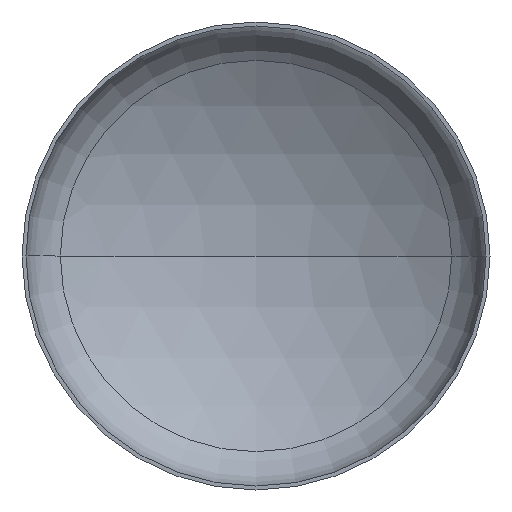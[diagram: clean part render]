
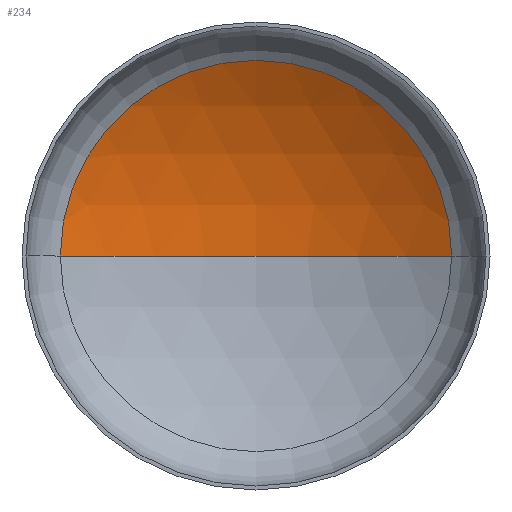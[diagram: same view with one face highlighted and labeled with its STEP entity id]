
A CAD part, front view. The second image highlights one B-rep face of the part: STEP entity #234.
In plain terms, the highlighted spherical face has radius 4000 mm.
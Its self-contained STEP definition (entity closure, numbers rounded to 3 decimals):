
#12 = EDGE_LOOP ( 'NONE', ( #50, #86, #32 ) ) ;
#32 = ORIENTED_EDGE ( 'NONE', *, *, #51, .T. ) ;
#36 = AXIS2_PLACEMENT_3D ( 'NONE', #188, #360, #356 ) ;
#42 = VERTEX_POINT ( 'NONE', #247 ) ;
#50 = ORIENTED_EDGE ( 'NONE', *, *, #151, .F. ) ;
#51 = EDGE_CURVE ( 'NONE', #107, #156, #211, .T. ) ;
#86 = ORIENTED_EDGE ( 'NONE', *, *, #112, .T. ) ;
#107 = VERTEX_POINT ( 'NONE', #338 ) ;
#112 = EDGE_CURVE ( 'NONE', #42, #107, #362, .T. ) ;
#136 = AXIS2_PLACEMENT_3D ( 'NONE', #323, #322, #300 ) ;
#151 = EDGE_CURVE ( 'NONE', #42, #156, #196, .T. ) ;
#156 = VERTEX_POINT ( 'NONE', #378 ) ;
#176 = CARTESIAN_POINT ( 'NONE',  ( 0., -2623.826, 0. ) ) ;
#185 = DIRECTION ( 'NONE',  ( 0., 0., -1. ) ) ;
#188 = CARTESIAN_POINT ( 'NONE',  ( 0., -2623.826, 0. ) ) ;
#196 = CIRCLE ( 'NONE', #136, 4000. ) ;
#211 = CIRCLE ( 'NONE', #386, 2090.402 ) ;
#227 = DIRECTION ( 'NONE',  ( 1., 0., 0. ) ) ;
#230 = DIRECTION ( 'NONE',  ( 0., -1., 0. ) ) ;
#233 = CARTESIAN_POINT ( 'NONE',  ( 0., 786.485, 0. ) ) ;
#234 = ADVANCED_FACE ( 'NONE', ( #251 ), #325, .F. ) ;
#247 = CARTESIAN_POINT ( 'NONE',  ( 0., 1376.174, 0. ) ) ;
#251 = FACE_OUTER_BOUND ( 'NONE', #12, .T. ) ;
#268 = DIRECTION ( 'NONE',  ( -1., 0., 0. ) ) ;
#300 = DIRECTION ( 'NONE',  ( 1., 0., 0. ) ) ;
#322 = DIRECTION ( 'NONE',  ( 0., 0., 1. ) ) ;
#323 = CARTESIAN_POINT ( 'NONE',  ( 0., -2623.826, 0. ) ) ;
#325 = SPHERICAL_SURFACE ( 'NONE', #326, 4000. ) ;
#326 = AXIS2_PLACEMENT_3D ( 'NONE', #176, #185, #268 ) ;
#338 = CARTESIAN_POINT ( 'NONE',  ( 2090.402, 786.485, 0. ) ) ;
#356 = DIRECTION ( 'NONE',  ( -1., 0., 0. ) ) ;
#360 = DIRECTION ( 'NONE',  ( 0., 0., -1. ) ) ;
#362 = CIRCLE ( 'NONE', #36, 4000. ) ;
#378 = CARTESIAN_POINT ( 'NONE',  ( -2090.402, 786.485, 0. ) ) ;
#386 = AXIS2_PLACEMENT_3D ( 'NONE', #233, #230, #227 ) ;
